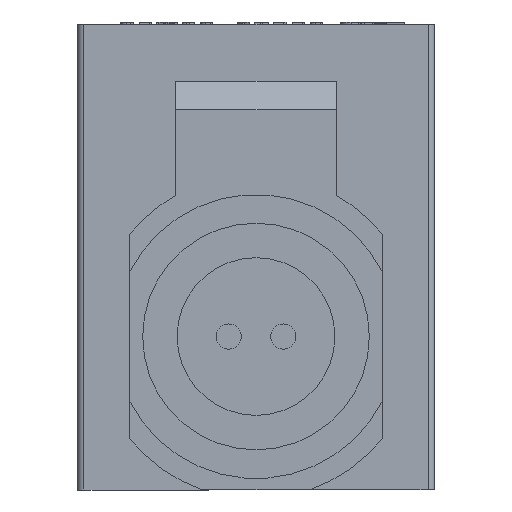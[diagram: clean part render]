
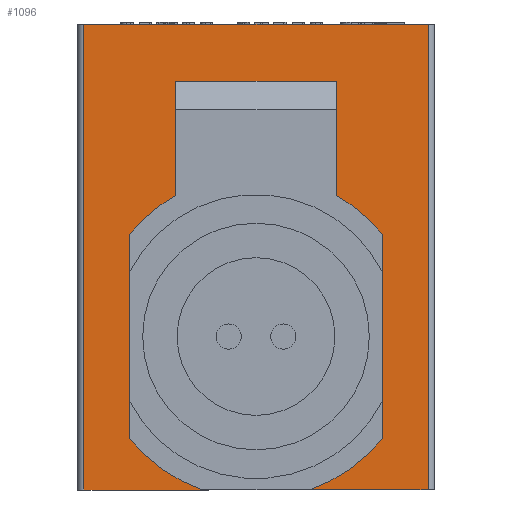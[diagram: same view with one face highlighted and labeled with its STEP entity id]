
A CAD part, front view. The second image highlights one B-rep face of the part: STEP entity #1096.
In plain terms, the highlighted planar face has unit normal (0, -1, 0).
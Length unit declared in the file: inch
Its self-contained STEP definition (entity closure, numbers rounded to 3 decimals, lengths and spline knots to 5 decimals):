
#811=CARTESIAN_POINT('',(2.59509,-4.92177,1.901));
#812=VERTEX_POINT('',#811);
#819=CARTESIAN_POINT('',(2.59509,-4.92177,1.40344));
#820=VERTEX_POINT('',#819);
#821=CARTESIAN_POINT('',(2.59509,-4.92177,1.40344));
#822=DIRECTION('',(0.0,0.0,1.0));
#823=VECTOR('',#822,0.49756);
#824=LINE('',#821,#823);
#825=EDGE_CURVE('',#820,#812,#824,.T.);
#842=CARTESIAN_POINT('',(2.71335,-4.92177,0.119));
#843=VERTEX_POINT('',#842);
#844=CARTESIAN_POINT('',(2.39509,-4.92177,0.34217));
#845=VERTEX_POINT('',#844);
#846=CARTESIAN_POINT('',(2.94509,-4.92177,0.788));
#847=DIRECTION('',(0.,1.0,0.));
#848=DIRECTION('',(-0.574,0.,-0.819));
#849=AXIS2_PLACEMENT_3D('',#846,#847,#848);
#850=CIRCLE('',#849,0.708);
#851=EDGE_CURVE('',#843,#845,#850,.T.);
#876=CARTESIAN_POINT('',(3.29509,-4.92177,1.40344));
#877=VERTEX_POINT('',#876);
#884=CARTESIAN_POINT('',(3.29509,-4.92177,1.901));
#885=VERTEX_POINT('',#884);
#886=CARTESIAN_POINT('',(3.29509,-4.92177,1.901));
#887=DIRECTION('',(0.0,0.0,-1.0));
#888=VECTOR('',#887,0.49756);
#889=LINE('',#886,#888);
#890=EDGE_CURVE('',#885,#877,#889,.T.);
#906=CARTESIAN_POINT('',(3.49509,-4.92177,1.23383));
#907=VERTEX_POINT('',#906);
#908=CARTESIAN_POINT('',(2.94509,-4.92177,0.788));
#909=DIRECTION('',(0.,1.0,0.));
#910=DIRECTION('',(0.647,0.,0.763));
#911=AXIS2_PLACEMENT_3D('',#908,#909,#910);
#912=CIRCLE('',#911,0.708);
#913=EDGE_CURVE('',#877,#907,#912,.T.);
#931=CARTESIAN_POINT('',(2.39509,-4.92177,1.23383));
#932=VERTEX_POINT('',#931);
#933=CARTESIAN_POINT('',(2.94509,-4.92177,0.788));
#934=DIRECTION('',(0.,1.0,0.));
#935=DIRECTION('',(-0.647,0.,0.763));
#936=AXIS2_PLACEMENT_3D('',#933,#934,#935);
#937=CIRCLE('',#936,0.708);
#938=EDGE_CURVE('',#932,#820,#937,.T.);
#956=CARTESIAN_POINT('',(3.49509,-4.92177,0.34217));
#957=VERTEX_POINT('',#956);
#958=CARTESIAN_POINT('',(3.17683,-4.92177,0.119));
#959=VERTEX_POINT('',#958);
#960=CARTESIAN_POINT('',(2.94509,-4.92177,0.788));
#961=DIRECTION('',(0.,1.0,0.));
#962=DIRECTION('',(0.574,0.,-0.819));
#963=AXIS2_PLACEMENT_3D('',#960,#961,#962);
#964=CIRCLE('',#963,0.708);
#965=EDGE_CURVE('',#957,#959,#964,.T.);
#995=CARTESIAN_POINT('',(3.49509,-4.92177,1.23383));
#996=DIRECTION('',(0.0,0.0,-1.0));
#997=VECTOR('',#996,0.89166);
#998=LINE('',#995,#997);
#999=EDGE_CURVE('',#907,#957,#998,.T.);
#1016=CARTESIAN_POINT('',(2.39509,-4.92177,0.34217));
#1017=DIRECTION('',(0.0,0.0,1.0));
#1018=VECTOR('',#1017,0.89166);
#1019=LINE('',#1016,#1018);
#1020=EDGE_CURVE('',#845,#932,#1019,.T.);
#1030=CARTESIAN_POINT('',(2.59509,-4.92177,1.901));
#1031=DIRECTION('',(1.0,0.0,0.0));
#1032=VECTOR('',#1031,0.7);
#1033=LINE('',#1030,#1032);
#1034=EDGE_CURVE('',#812,#885,#1033,.T.);
#1042=CARTESIAN_POINT('',(2.19511,-4.92177,2.149));
#1043=DIRECTION('',(0.0,-1.0,0.0));
#1044=DIRECTION('',(0.0,0.0,1.0));
#1045=AXIS2_PLACEMENT_3D('',#1042,#1043,#1044);
#1046=PLANE('',#1045);
#1047=ORIENTED_EDGE('',*,*,#851,.T.);
#1048=ORIENTED_EDGE('',*,*,#1020,.T.);
#1049=ORIENTED_EDGE('',*,*,#938,.T.);
#1050=ORIENTED_EDGE('',*,*,#825,.T.);
#1051=ORIENTED_EDGE('',*,*,#1034,.T.);
#1052=ORIENTED_EDGE('',*,*,#890,.T.);
#1053=ORIENTED_EDGE('',*,*,#913,.T.);
#1054=ORIENTED_EDGE('',*,*,#999,.T.);
#1055=ORIENTED_EDGE('',*,*,#965,.T.);
#1056=CARTESIAN_POINT('',(3.69507,-4.92177,0.119));
#1057=VERTEX_POINT('',#1056);
#1058=CARTESIAN_POINT('',(3.17683,-4.92177,0.119));
#1059=DIRECTION('',(1.0,0.0,0.0));
#1060=VECTOR('',#1059,0.51824);
#1061=LINE('',#1058,#1060);
#1062=EDGE_CURVE('',#959,#1057,#1061,.T.);
#1063=ORIENTED_EDGE('',*,*,#1062,.T.);
#1064=CARTESIAN_POINT('',(3.69507,-4.92177,2.149));
#1065=VERTEX_POINT('',#1064);
#1066=CARTESIAN_POINT('',(3.69507,-4.92177,2.149));
#1067=DIRECTION('',(0.0,0.0,-1.0));
#1068=VECTOR('',#1067,2.03);
#1069=LINE('',#1066,#1068);
#1070=EDGE_CURVE('',#1065,#1057,#1069,.T.);
#1071=ORIENTED_EDGE('',*,*,#1070,.F.);
#1072=CARTESIAN_POINT('',(2.19511,-4.92177,2.149));
#1073=VERTEX_POINT('',#1072);
#1074=CARTESIAN_POINT('',(3.69507,-4.92177,2.149));
#1075=DIRECTION('',(-1.0,0.0,0.0));
#1076=VECTOR('',#1075,1.49996);
#1077=LINE('',#1074,#1076);
#1078=EDGE_CURVE('',#1065,#1073,#1077,.T.);
#1079=ORIENTED_EDGE('',*,*,#1078,.T.);
#1080=CARTESIAN_POINT('',(2.19511,-4.92177,0.119));
#1081=VERTEX_POINT('',#1080);
#1082=CARTESIAN_POINT('',(2.19511,-4.92177,2.149));
#1083=DIRECTION('',(0.0,0.0,-1.0));
#1084=VECTOR('',#1083,2.03);
#1085=LINE('',#1082,#1084);
#1086=EDGE_CURVE('',#1073,#1081,#1085,.T.);
#1087=ORIENTED_EDGE('',*,*,#1086,.T.);
#1088=CARTESIAN_POINT('',(2.19511,-4.92177,0.119));
#1089=DIRECTION('',(1.0,0.0,0.0));
#1090=VECTOR('',#1089,0.51824);
#1091=LINE('',#1088,#1090);
#1092=EDGE_CURVE('',#1081,#843,#1091,.T.);
#1093=ORIENTED_EDGE('',*,*,#1092,.T.);
#1094=EDGE_LOOP('',(#1047,#1048,#1049,#1050,#1051,#1052,#1053,#1054,#1055,#1063,#1071,#1079,#1087,#1093));
#1095=FACE_OUTER_BOUND('',#1094,.T.);
#1096=ADVANCED_FACE('',(#1095),#1046,.T.);
